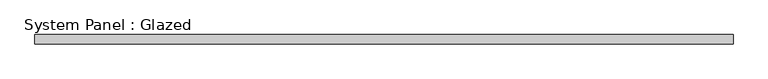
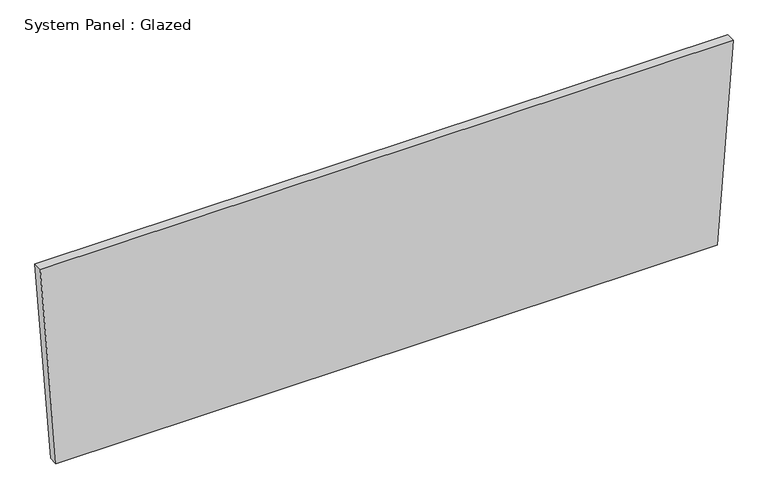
"""IFC4 building model written with IfcOpenShell, lengths in millimetres: plate geometry, System Panel : Glazed."""

from ifc_helpers import new_model, si_unit, frame, origin, place, context, project, spatial, polyline, outline, extrude, source, transform, mapped, element, save


def system_panel_glazed_45b67513(model_context):
    return source(origin(), model_context, "Body", "SweptSolid", [
        extrude(outline(polyline([(0.0, -912.7323068), (0.0, 912.7323068), (582.5097319, 956.201153), (582.5097319, -956.201153), (0.0, -912.7323068)])), frame((0.0, 19.05, 0.0), z_axis=(0.0, 1.0, 0.0), x_axis=(0.0, 0.0, 1.0)), (0.0, 0.0, 1.0), 25.4),
    ])


if __name__ == "__main__":
    model = new_model("IFC4")
    model_context = context("Model", 3, world=origin())
    ifc_project = project(units=[si_unit("LENGTHUNIT", "METRE", prefix="MILLI")], contexts=[model_context])
    site = spatial("IfcSite", under=ifc_project)
    building = spatial("IfcBuilding", under=site)
    placement = place(None, origin())
    system_panel_glazed_shape = system_panel_glazed_45b67513(model_context)
    element("IfcPlate", 1, ObjectType="System Panel : Glazed", at=placement, inside=building, context=model_context, shape_type="MappedRepresentation", body=[
        mapped(system_panel_glazed_shape, transform((0.0, 0.0, 0.0), x_axis=(1.0, 0.0, 0.0), y_axis=(0.0, 1.0, 0.0), z_axis=(0.0, 0.0, 1.0))),
    ])
    save(model, "model.ifc")
